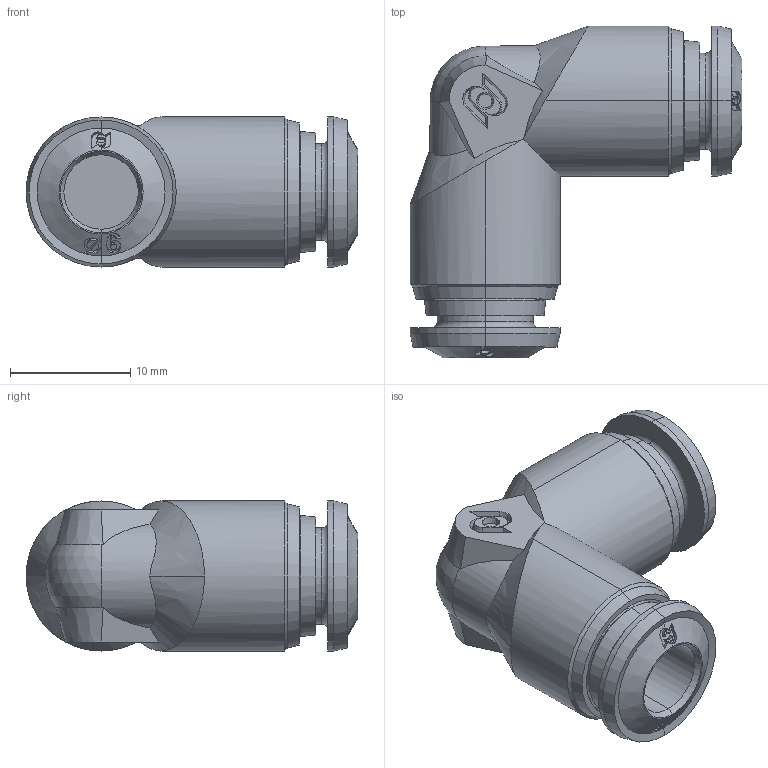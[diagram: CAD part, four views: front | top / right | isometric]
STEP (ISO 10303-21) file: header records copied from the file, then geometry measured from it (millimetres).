
FILE_DESCRIPTION (( 'STEP AP214' ), '1' );
FILE_NAME ('5013000002.step', '2012-10-01T16:47:06', ( '' ), ( '' ), 'SwSTEP 2.0', 'SolidWorks 2012', '' );
FILE_SCHEMA (( 'AUTOMOTIVE_DESIGN' ));
Length unit declared in the file: millimetre
Products named in the file (1): 5013000002
Bounding box: 27.65 x 27.65 x 12.5 mm (x, y, z)
Volume: 3813.3 mm3; surface area: 2673.4 mm2
Topology: 1 solids, 3 shells, 273 faces, 700 edges, 461 vertices
Faces by surface type: bspline 98, cone 76, plane 48, cylinder 42, torus 8, sphere 1
Entity records: 18784 total; most frequent: CARTESIAN_POINT 10015, ORIENTED_EDGE 1400, DIRECTION 830, EDGE_CURVE 700, VERTEX_POINT 461, B_SPLINE_CURVE_WITH_KNOTS 373, AXIS2_PLACEMENT_3D 340, EDGE_LOOP 305
